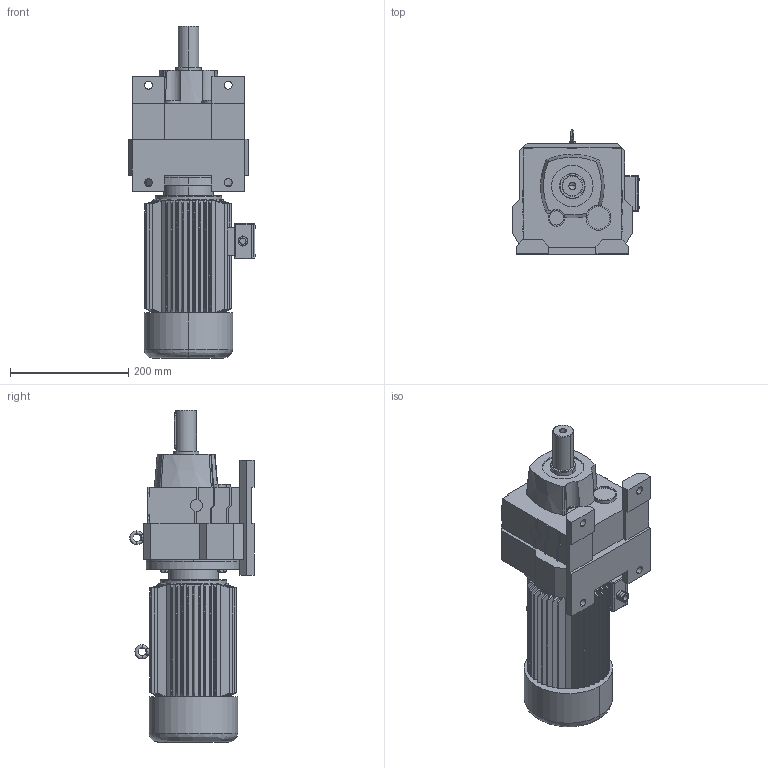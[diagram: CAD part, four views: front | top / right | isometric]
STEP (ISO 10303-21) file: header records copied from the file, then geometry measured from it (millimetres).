
FILE_DESCRIPTION (( 'STEP AP214' ), '1' );
FILE_NAME ('MR57.step', '2020-06-27T02:51:43', ( '' ), ( '' ), 'SwSTEP 2.0', 'SolidWorks 2016', '' );
FILE_SCHEMA (( 'AUTOMOTIVE_DESIGN' ));
Length unit declared in the file: millimetre
Products named in the file (1): MR57
Bounding box: 214.36 x 210.38 x 562 mm (x, y, z)
Volume: 9164119 mm3; surface area: 600772.4 mm2
Topology: 3 solids, 3 shells, 932 faces, 2408 edges, 1526 vertices
Faces by surface type: plane 507, cone 162, cylinder 133, bspline 130
Entity records: 42174 total; most frequent: CARTESIAN_POINT 10483, ORIENTED_EDGE 4796, DIRECTION 3877, EDGE_CURVE 2398, VERTEX_POINT 1526, LINE 1309, VECTOR 1309, AXIS2_PLACEMENT_3D 1284
